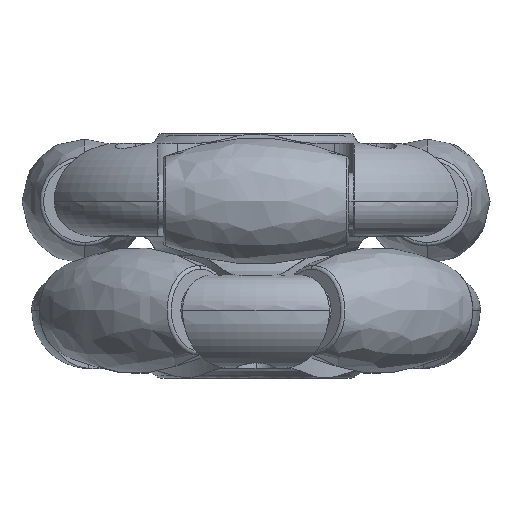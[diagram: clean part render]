
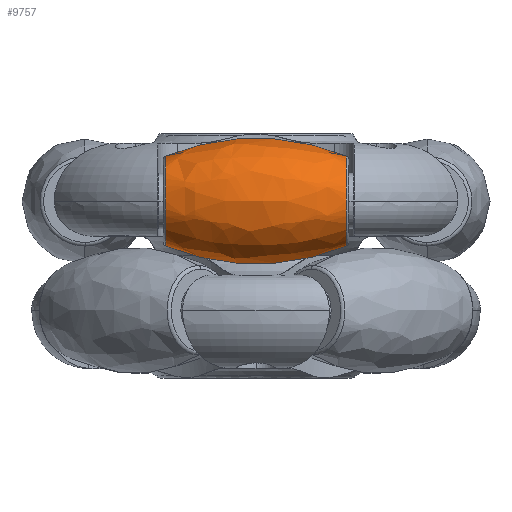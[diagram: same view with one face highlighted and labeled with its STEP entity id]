
A CAD part, top view. The second image highlights one B-rep face of the part: STEP entity #9757.
In plain terms, the highlighted free-form (B-spline) face has degree [3, 3] with [7, 4] control points.
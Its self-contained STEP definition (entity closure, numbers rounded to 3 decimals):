
#9491=CARTESIAN_POINT('',(-9.254,5.6,-17.55));
#9492=DIRECTION('',(-1.,0.,0.));
#9493=DIRECTION('',(0.,1.,-0.007));
#9494=AXIS2_PLACEMENT_3D('',#9491,#9492,#9493);
#9496=CARTESIAN_POINT('',(0.,23.15,-17.55));
#9497=DIRECTION('',(0.,0.,1.));
#9498=DIRECTION('',(-0.386,-0.923,0.));
#9499=AXIS2_PLACEMENT_3D('',#9496,#9497,#9498);
#9501=CARTESIAN_POINT('',(9.254,5.6,-17.55));
#9502=DIRECTION('',(1.,0.,0.));
#9503=DIRECTION('',(0.,-1.,0.));
#9504=AXIS2_PLACEMENT_3D('',#9501,#9502,#9503);
#9506=CARTESIAN_POINT('',(9.254,5.6,-17.55));
#9507=DIRECTION('',(1.,0.,0.));
#9508=DIRECTION('',(0.,1.,-0.01));
#9509=AXIS2_PLACEMENT_3D('',#9506,#9507,#9508);
#9511=CARTESIAN_POINT('',(0.,-11.95,-17.55));
#9512=DIRECTION('',(0.,0.,1.));
#9513=DIRECTION('',(0.386,0.923,0.));
#9514=AXIS2_PLACEMENT_3D('',#9511,#9512,#9513);
#9521=CARTESIAN_POINT('',(-9.254,5.6,-17.55));
#9522=DIRECTION('',(1.,0.,0.));
#9523=DIRECTION('',(0.,1.,-0.007));
#9524=AXIS2_PLACEMENT_3D('',#9521,#9522,#9523);
#9589=CARTESIAN_POINT('',(-9.254,10.194,-17.582));
#9590=CARTESIAN_POINT('',(-9.254,1.006,-17.55));
#9591=VERTEX_POINT('',#9589);
#9592=VERTEX_POINT('',#9590);
#9601=CARTESIAN_POINT('',(9.254,1.006,-17.55));
#9603=VERTEX_POINT('',#9601);
#9605=CARTESIAN_POINT('',(9.254,10.194,-17.55));
#9606=VERTEX_POINT('',#9605);
#9607=CARTESIAN_POINT('',(-9.254,10.194,-17.55));
#9608=VERTEX_POINT('',#9607);
#9615=CARTESIAN_POINT('',(9.254,10.194,-17.598));
#9616=VERTEX_POINT('',#9615);
#9716=CARTESIAN_POINT('',(9.604,10.036,-17.271));
#9717=CARTESIAN_POINT('',(3.39,12.744,-17.101));
#9718=CARTESIAN_POINT('',(-3.39,12.744,
-17.101));
#9719=CARTESIAN_POINT('',(-9.604,10.036,
-17.271));
#9720=CARTESIAN_POINT('',(9.604,10.208,-20.001));
#9721=CARTESIAN_POINT('',(3.39,13.02,-21.497));
#9722=CARTESIAN_POINT('',(-3.39,13.02,
-21.497));
#9723=CARTESIAN_POINT('',(-9.604,10.208,
-20.001));
#9724=CARTESIAN_POINT('',(9.604,8.335,-21.995));
#9725=CARTESIAN_POINT('',(3.39,10.005,-24.708));
#9726=CARTESIAN_POINT('',(-3.39,10.005,
-24.708));
#9727=CARTESIAN_POINT('',(-9.604,8.335,
-21.995));
#9728=CARTESIAN_POINT('',(9.604,5.6,-21.995));
#9729=CARTESIAN_POINT('',(3.39,5.6,-24.708));
#9730=CARTESIAN_POINT('',(-3.39,5.6,-24.708));
#9731=CARTESIAN_POINT('',(-9.604,5.6,-21.995));
#9732=CARTESIAN_POINT('',(9.604,2.865,-21.995));
#9733=CARTESIAN_POINT('',(3.39,1.195,-24.708));
#9734=CARTESIAN_POINT('',(-3.39,1.195,
-24.708));
#9735=CARTESIAN_POINT('',(-9.604,2.865,
-21.995));
#9736=CARTESIAN_POINT('',(9.604,0.992,
-20.001));
#9737=CARTESIAN_POINT('',(3.39,-1.82,
-21.497));
#9738=CARTESIAN_POINT('',(-3.39,-1.82,
-21.497));
#9739=CARTESIAN_POINT('',(-9.604,0.992,
-20.001));
#9740=CARTESIAN_POINT('',(9.604,1.164,-17.271));
#9741=CARTESIAN_POINT('',(3.39,-1.544,
-17.101));
#9742=CARTESIAN_POINT('',(-3.39,-1.544,
-17.101));
#9743=CARTESIAN_POINT('',(-9.604,1.164,
-17.271));
#9744=(BOUNDED_SURFACE()B_SPLINE_SURFACE(3,3,((#9716,#9717,#9718,#9719),(#9720,
#9721,#9722,#9723),(#9724,#9725,#9726,#9727),(#9728,#9729,#9730,#9731),(#9732,
#9733,#9734,#9735),(#9736,#9737,#9738,#9739),(#9740,#9741,#9742,#9743)),
.UNSPECIFIED.,.F.,.F.,.F.)B_SPLINE_SURFACE_WITH_KNOTS((4,3,4),(4,4),(0.,1.,
2.),(0.,1.),.UNSPECIFIED.)GEOMETRIC_REPRESENTATION_ITEM()RATIONAL_B_SPLINE_SURFACE(((1.239,1.17,1.17,1.239),(
0.978,0.924,0.924,0.978),(
0.978,0.924,0.924,0.978),(
1.239,1.17,1.17,1.239),(
0.978,0.924,0.924,0.978),(
0.978,0.924,0.924,0.978),(
1.239,1.17,1.17,1.239)))REPRESENTATION_ITEM('')SURFACE());
#9746=ORIENTED_EDGE('',*,*,#9745,.F.);
#9748=ORIENTED_EDGE('',*,*,#9747,.T.);
#9750=ORIENTED_EDGE('',*,*,#9749,.T.);
#9751=ORIENTED_EDGE('',*,*,#9705,.T.);
#9752=ORIENTED_EDGE('',*,*,#9692,.T.);
#9754=ORIENTED_EDGE('',*,*,#9753,.T.);
#9755=EDGE_LOOP('',(#9746,#9748,#9750,#9751,#9752,#9754));
#9756=FACE_OUTER_BOUND('',#9755,.F.);
#9495=CIRCLE('',#9494,4.594);
#9500=CIRCLE('',#9499,24.);
#9505=CIRCLE('',#9504,4.594);
#9510=CIRCLE('',#9509,4.594);
#9515=CIRCLE('',#9514,24.);
#9525=CIRCLE('',#9524,4.594);
#9692=EDGE_CURVE('',#9616,#9606,#9510,.T.);
#9705=EDGE_CURVE('',#9603,#9616,#9505,.T.);
#9745=EDGE_CURVE('',#9591,#9608,#9525,.T.);
#9747=EDGE_CURVE('',#9591,#9592,#9495,.T.);
#9749=EDGE_CURVE('',#9592,#9603,#9500,.T.);
#9753=EDGE_CURVE('',#9606,#9608,#9515,.T.);
#9757=ADVANCED_FACE('',(#9756),#9744,.T.);
